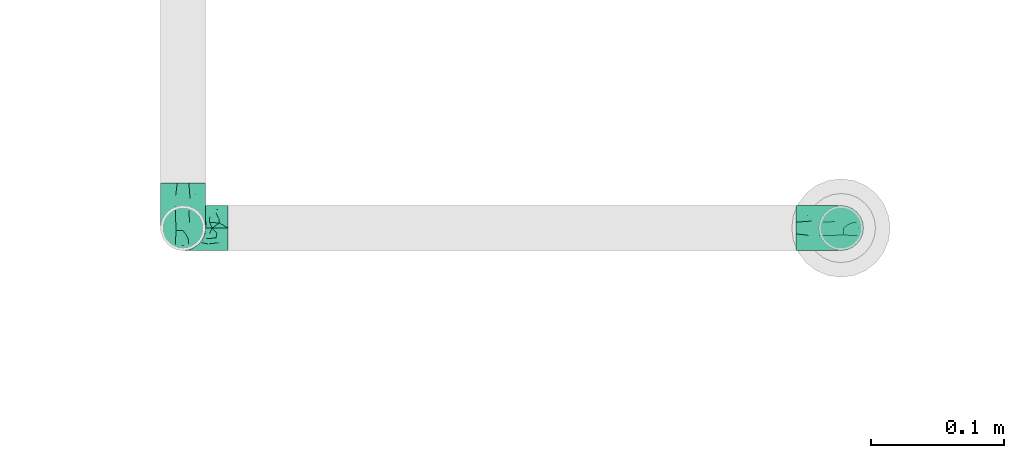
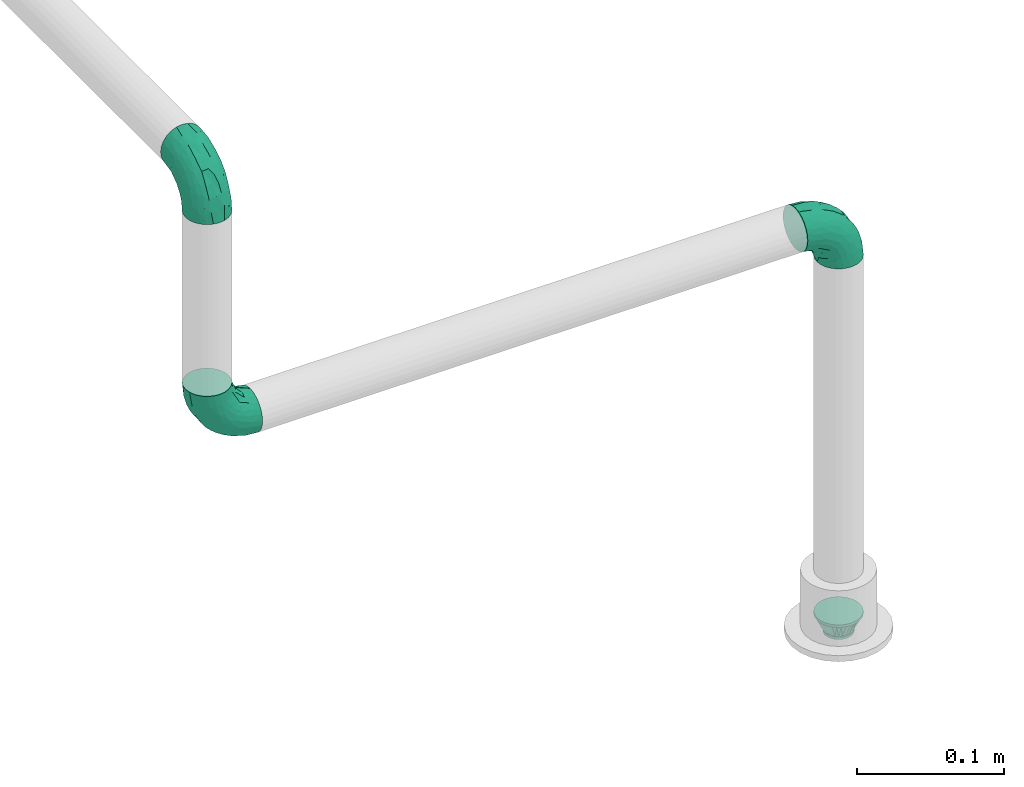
# One storey, part 77 of 95: 4 flow fittings.
"""IFC2X3 building model written with IfcOpenShell, lengths in millimetres."""

from ifc_helpers import new_model, entity, si_unit, converted_unit, derived_unit, direction, frame, origin_with_axes, place, context, subcontext, project, spatial, open_shell, surface_model, source, transform, mapped, type_object, element, save


model = new_model("IFC2X3")

# Units and contexts
model_context = context("Model", 3, precision=0.01, world=frame((0.0, 4.29681676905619e-09, 0.0)), true_north=direction((4.01073788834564e-13, 1.0)))
plan_context = context("Plan", 3, precision=0.01, world=frame((0.0, 4.29681676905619e-09, 0.0)), true_north=direction((4.01073788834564e-13, 1.0)))
body_context = subcontext(model_context, "Body", "Model", "MODEL_VIEW")
ifc_project = project(units=[converted_unit("PLANEANGLEUNIT", "DEGREE", entity("IfcPositiveLengthMeasure", 0.0174532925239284), si_unit("PLANEANGLEUNIT", "RADIAN"), dimensions=[0, 0, 0, 0, 0, 0, 0]), si_unit("AREAUNIT", "SQUARE_METRE"), si_unit("LENGTHUNIT", "METRE", prefix="MILLI"), si_unit("MASSUNIT", "GRAM", prefix="KILO"), si_unit("POWERUNIT", "WATT"), si_unit("PRESSUREUNIT", "PASCAL"), si_unit("FORCEUNIT", "NEWTON", prefix="KILO"), si_unit("ELECTRICVOLTAGEUNIT", "VOLT"), si_unit("ELECTRICCURRENTUNIT", "AMPERE"), si_unit("THERMODYNAMICTEMPERATUREUNIT", "DEGREE_CELSIUS"), si_unit("TIMEUNIT", "SECOND"), si_unit("VOLUMEUNIT", "CUBIC_METRE"), derived_unit("LINEARVELOCITYUNIT", [(si_unit("LENGTHUNIT", "METRE"), 1), (si_unit("TIMEUNIT", "SECOND"), -1)]), derived_unit("VOLUMETRICFLOWRATEUNIT", [(si_unit("VOLUMEUNIT", "CUBIC_METRE"), 1), (si_unit("TIMEUNIT", "SECOND"), -1)]), derived_unit("THERMALTRANSMITTANCEUNIT", [(si_unit("POWERUNIT", "WATT"), 1), (si_unit("THERMODYNAMICTEMPERATUREUNIT", "KELVIN"), -1), (si_unit("AREAUNIT", "SQUARE_METRE"), -1)]), derived_unit("SOUNDPRESSUREUNIT", [(si_unit("PRESSUREUNIT", "PASCAL"), 1)])], contexts=[model_context, plan_context])

# Site, building, storey
site_placement = place(None, frame((0.0, -4.29681676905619e-09, 0.0), z_axis=(0.0, 0.0, 1.0), x_axis=(1.0, 0.0, 0.0)))
site = spatial("IfcSite", under=ifc_project, at=site_placement, CompositionType="ELEMENT")
building_placement = place(site_placement, frame((0.0, 4.29681676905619e-09, 0.0), z_axis=(0.0, 0.0, 1.0), x_axis=(1.0, 0.0, 0.0)))
building = spatial("IfcBuilding", under=site, at=building_placement, Name="mc-building", CompositionType="ELEMENT")
storey_placement = place(building_placement, frame((0.0, 0.0, 210900.0), z_axis=(0.0, 0.0, 1.0), x_axis=(1.0, 0.0, 0.0)))
storey = spatial("IfcBuildingStorey", under=building, at=storey_placement, Name="Nivå F", CompositionType="ELEMENT", Elevation=210900.0)

# Flow fittings
pipe_fitting_type_1 = type_object("IfcPipeFittingType", Name="magi_pipe_fe_reducer_centric_short_NOR", PredefinedType="TRANSITION")
shared_shape_1 = source(origin_with_axes(), body_context, "Body", "SurfaceModel", [
    surface_model("IfcShellBasedSurfaceModel", [(14.4, 5.35, -9.26647), (14.4, 0.0, -10.7), (14.4, 2.76936, -10.33541), (14.4, 10.33541, -2.76936), (14.4, 7.56604, -7.56604), (14.4, -10.33541, -2.76936), (14.4, 9.26647, -5.35), (14.4, 0.0, 10.7), (14.4, -5.35, -9.26647), (14.4, -2.76936, -10.33541), (14.4, -7.56604, -7.56604), (14.4, -9.26647, -5.35), (14.4, 10.7, 0.0), (14.4, 10.33541, 2.76936), (14.4, 9.26647, 5.35), (14.4, 7.56604, 7.56604), (14.4, 2.76936, 10.33541), (14.4, 5.35, 9.26647), (14.4, -10.33541, 2.76936), (14.4, -7.56604, 7.56604), (14.4, -9.26647, 5.35), (14.4, -10.7, 0.0), (14.4, -2.76936, 10.33541), (14.4, -5.35, 9.26647), (12.4, 2.76936, 10.33541), (12.4, -10.33541, -2.76936), (12.4, 0.0, 10.7), (12.4, 5.35, 9.26647), (12.4, 7.56604, 7.56604), (12.4, 9.26647, 5.35), (12.4, 10.33541, 2.76936), (12.4, -10.33541, 2.76936), (12.4, -2.76936, 10.33541), (12.4, -7.56604, 7.56604), (12.4, -5.35, 9.26647), (12.4, -9.26647, 5.35), (12.4, -10.7, 0.0), (12.4, 10.33541, -2.76936), (12.4, 5.35, -9.26647), (12.4, 9.26647, -5.35), (12.4, 7.56604, -7.56604), (12.4, 2.76936, -10.33541), (12.4, -9.26647, -5.35), (12.4, -5.35, -9.26647), (12.4, -7.56604, -7.56604), (12.4, 0.0, -10.7), (12.4, -2.76936, -10.33541), (12.4, 10.7, 0.0), (-2.0, 11.9501, 11.9501), (-2.0, 0.0, 16.9), (-2.0, 4.37404, 16.32415), (-2.0, 8.45, 14.63583), (-2.0, 14.63583, 8.45), (-2.0, 16.32415, 4.37404), (-2.0, -16.32415, 4.37404), (-2.0, -8.45, 14.63583), (-2.0, -14.63583, 8.45), (-2.0, -11.9501, 11.9501), (-2.0, -4.37404, 16.32415), (-2.0, -16.32415, -4.37404), (-2.0, -16.9, 0.0), (-2.0, -8.45, -14.63583), (-2.0, 16.32415, -4.37404), (-2.0, 11.9501, -11.9501), (-2.0, 14.63583, -8.45), (-2.0, 8.45, -14.63583), (-2.0, 4.37404, -16.32415), (-2.0, 0.0, -16.9), (-2.0, -11.9501, -11.9501), (-2.0, -14.63583, -8.45), (-2.0, -4.37404, -16.32415), (-2.0, 16.9, 0.0), (0.0, 4.37404, -16.32415), (0.0, 8.45, -14.63583), (0.0, 11.9501, -11.9501), (0.0, 0.0, -16.9), (0.0, 16.32415, -4.37404), (0.0, 16.32415, 4.37404), (0.0, 14.63583, -8.45), (0.0, -8.45, -14.63583), (0.0, -4.37404, -16.32415), (0.0, -11.9501, -11.9501), (0.0, -16.32415, -4.37404), (0.0, -14.63583, -8.45), (0.0, -16.32415, 4.37404), (0.0, 16.9, 0.0), (0.0, 14.63583, 8.45), (0.0, 11.9501, 11.9501), (0.0, 4.37404, 16.32415), (0.0, 8.45, 14.63583), (0.0, 0.0, 16.9), (0.0, -14.63583, 8.45), (0.0, -16.9, 0.0), (0.0, -8.45, 14.63583), (0.0, -11.9501, 11.9501), (0.0, -4.37404, 16.32415), (12.4, 9.3625, -2.31662), (0.0, 14.42505, -5.97505), (0.0, 15.66253, -2.98753), (12.4, -6.6875, -6.94985), (0.0, -13.18758, -8.96258), (0.0, 2.98753, -15.66253), (12.4, 0.0, -9.26647), (12.4, 6.6875, -6.94985), (0.0, 8.96258, -13.18758), (12.4, -9.3625, -2.31662), (0.0, -15.66253, -2.98753), (0.0, -14.42505, -5.97505), (0.0, 5.97505, -14.42505), (0.0, -2.98753, -15.66253), (0.0, -8.96258, -13.18758), (0.0, 13.18758, -8.96258), (12.4, 8.025, -4.63324), (12.4, -2.675, -9.26647), (12.4, 2.675, -9.26647), (0.0, -5.97505, -14.42505), (12.4, -8.025, -4.63324), (12.4, -9.3625, 2.31662), (0.0, -14.42505, 5.97505), (0.0, -15.66253, 2.98753), (12.4, 6.6875, 6.94985), (0.0, 13.18758, 8.96258), (0.0, -2.98753, 15.66253), (12.4, 0.0, 9.26647), (12.4, -6.6875, 6.94985), (0.0, -8.96258, 13.18758), (12.4, 9.3625, 2.31662), (0.0, 15.66253, 2.98753), (0.0, 14.42505, 5.97505), (0.0, -5.97505, 14.42505), (0.0, 2.98753, 15.66253), (0.0, 8.96258, 13.18758), (0.0, -13.18758, 8.96258), (12.4, -8.025, 4.63324), (12.4, 2.675, 9.26647), (12.4, -2.675, 9.26647), (0.0, 5.97505, 14.42505), (12.4, 8.025, 4.63324)], [open_shell([[[0, 1, 2]], [[3, 0, 4]], [[5, 0, 3]], [[3, 4, 6]], [[7, 5, 3]], [[1, 8, 9]], [[1, 0, 8]], [[10, 5, 11]], [[5, 10, 8]], [[0, 5, 8]], [[3, 12, 13]], [[13, 14, 15]], [[13, 15, 16]], [[7, 3, 16]], [[16, 15, 17]], [[7, 18, 5]], [[18, 19, 20]], [[21, 5, 18]], [[19, 22, 23]], [[22, 19, 18]], [[7, 22, 18]], [[13, 16, 3]], [[24, 25, 26]], [[27, 25, 24]], [[28, 29, 30]], [[28, 25, 27]], [[31, 26, 25]], [[32, 33, 34]], [[33, 32, 31]], [[33, 31, 35]], [[32, 26, 31]], [[31, 25, 36]], [[30, 37, 28]], [[25, 28, 37]], [[38, 37, 39]], [[37, 38, 25]], [[38, 39, 40]], [[41, 25, 38]], [[42, 43, 44]], [[43, 42, 25]], [[43, 45, 46]], [[43, 25, 41]], [[41, 45, 43]], [[37, 30, 47]], [[25, 5, 36]], [[42, 11, 25]], [[8, 44, 43]], [[42, 44, 10]], [[9, 43, 46]], [[25, 11, 5]], [[5, 21, 36]], [[9, 8, 43]], [[10, 44, 8]], [[10, 11, 42]], [[1, 9, 46]], [[46, 45, 1]], [[41, 2, 45]], [[38, 0, 41]], [[6, 40, 39]], [[38, 40, 4]], [[3, 39, 37]], [[38, 4, 0]], [[0, 2, 41]], [[12, 3, 37]], [[6, 39, 3]], [[6, 4, 40]], [[47, 12, 37]], [[45, 2, 1]], [[30, 13, 47]], [[29, 14, 30]], [[17, 28, 27]], [[29, 28, 15]], [[16, 27, 24]], [[30, 14, 13]], [[13, 12, 47]], [[16, 17, 27]], [[15, 28, 17]], [[15, 14, 29]], [[7, 16, 24]], [[24, 26, 7]], [[32, 22, 26]], [[34, 23, 32]], [[20, 33, 35]], [[34, 33, 19]], [[18, 35, 31]], [[34, 19, 23]], [[23, 22, 32]], [[21, 18, 31]], [[20, 35, 18]], [[20, 19, 33]], [[36, 21, 31]], [[26, 22, 7]], [[48, 49, 50]], [[48, 50, 51]], [[48, 52, 53]], [[48, 53, 49]], [[49, 53, 54]], [[55, 56, 57]], [[55, 58, 49]], [[56, 55, 49]], [[49, 54, 56]], [[54, 59, 60]], [[54, 53, 61]], [[53, 62, 63]], [[63, 62, 64]], [[63, 65, 66]], [[61, 53, 63]], [[67, 63, 66]], [[59, 68, 69]], [[68, 59, 61]], [[61, 67, 70]], [[59, 54, 61]], [[63, 67, 61]], [[53, 71, 62]], [[72, 73, 74]], [[75, 72, 74]], [[74, 76, 77]], [[76, 74, 78]], [[74, 77, 79]], [[75, 79, 80]], [[75, 74, 79]], [[81, 82, 83]], [[82, 81, 79]], [[79, 84, 82]], [[77, 76, 85]], [[77, 86, 87]], [[77, 87, 88]], [[88, 84, 79]], [[88, 87, 89]], [[84, 88, 90]], [[90, 91, 84]], [[92, 82, 84]], [[91, 93, 94]], [[91, 90, 93]], [[93, 90, 95]], [[79, 77, 88]], [[59, 82, 60]], [[69, 83, 59]], [[79, 68, 61]], [[69, 68, 81]], [[80, 61, 70]], [[59, 83, 82]], [[82, 92, 60]], [[80, 79, 61]], [[81, 68, 79]], [[81, 83, 69]], [[75, 80, 70]], [[70, 67, 75]], [[66, 72, 67]], [[65, 73, 66]], [[78, 63, 64]], [[65, 63, 74]], [[76, 64, 62]], [[65, 74, 73]], [[73, 72, 66]], [[85, 76, 62]], [[78, 64, 76]], [[78, 74, 63]], [[71, 85, 62]], [[67, 72, 75]], [[53, 77, 71]], [[52, 86, 53]], [[89, 48, 51]], [[52, 48, 87]], [[88, 51, 50]], [[53, 86, 77]], [[77, 85, 71]], [[88, 89, 51]], [[87, 48, 89]], [[87, 86, 52]], [[90, 88, 50]], [[50, 49, 90]], [[58, 95, 49]], [[55, 93, 58]], [[91, 57, 56]], [[55, 57, 94]], [[84, 56, 54]], [[55, 94, 93]], [[93, 95, 58]], [[92, 84, 54]], [[91, 56, 84]], [[91, 94, 57]], [[60, 92, 54]], [[49, 95, 90]], [[27, 34, 47]], [[47, 34, 43]], [[43, 38, 47]], [[43, 34, 36]], [[90, 87, 94]], [[92, 94, 87]], [[87, 74, 92]], [[75, 92, 74]], [[81, 92, 75]], [[74, 87, 85]], [[96, 97, 98]], [[81, 99, 100]], [[101, 102, 75]], [[98, 85, 47]], [[74, 103, 104]], [[104, 103, 38]], [[105, 106, 107]], [[38, 108, 104]], [[102, 109, 75]], [[110, 99, 81]], [[47, 96, 98]], [[103, 111, 112]], [[109, 102, 113]], [[36, 92, 106]], [[102, 101, 114]], [[110, 115, 43]], [[96, 112, 97]], [[107, 116, 105]], [[36, 106, 105]], [[113, 115, 109]], [[43, 115, 113]], [[116, 107, 100]], [[108, 38, 114]], [[111, 103, 74]], [[111, 97, 112]], [[99, 110, 43]], [[116, 100, 99]], [[101, 108, 114]], [[117, 118, 119]], [[87, 120, 121]], [[122, 123, 90]], [[119, 92, 36]], [[94, 124, 125]], [[125, 124, 34]], [[126, 127, 128]], [[34, 129, 125]], [[123, 130, 90]], [[131, 120, 87]], [[36, 117, 119]], [[124, 132, 133]], [[130, 123, 134]], [[47, 85, 127]], [[123, 122, 135]], [[131, 136, 27]], [[117, 133, 118]], [[128, 137, 126]], [[47, 127, 126]], [[134, 136, 130]], [[27, 136, 134]], [[137, 128, 121]], [[129, 34, 135]], [[132, 124, 94]], [[132, 118, 133]], [[120, 131, 27]], [[137, 121, 120]], [[122, 129, 135]]])]),
])
flow_fitting_placement = place(storey_placement, frame((530497.57166, 458598.02191, 3769.25200000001), z_axis=(0.0, -1.0, 0.0), x_axis=(0.0, 0.0, -1.0)))
element("IfcFlowFitting", 1, at=flow_fitting_placement, inside=storey, type_object=pipe_fitting_type_1, Name="magi_pipe_fe_reducer_centric_short_NOR", context=body_context, shape_type="MappedRepresentation", body=[
    mapped(shared_shape_1, transform((0.0, 0.0, 0.0), scale=1.0)),
])
pipe_fitting_type_2 = type_object("IfcPipeFittingType", Name="magi_pipe_fe_elbow_short_001", PredefinedType="BEND")
shared_shape_2 = source(origin_with_axes(), body_context, "Body", "SurfaceModel", [
    surface_model("IfcShellBasedSurfaceModel", [(-33.8, 8.45, -14.63583), (-33.8, 4.37404, -16.32415), (-33.8, 11.9501, -11.9501), (-33.8, -11.9501, -11.9501), (-33.8, -14.63583, -8.45), (-33.8, -8.45, -14.63583), (-33.8, 0.0, -16.9), (-33.8, -4.37404, -16.32415), (-33.8, -4.37404, 16.32415), (-33.8, 0.0, 16.9), (-33.8, -8.45, 14.63583), (-33.8, 16.32415, -4.37404), (-33.8, 14.63583, -8.45), (-33.8, -16.32415, -4.37404), (-33.8, -16.9, 0.0), (-33.8, -16.32415, 4.37404), (-33.8, 11.9501, 11.9501), (-33.8, 14.63583, 8.45), (-33.8, 16.32415, 4.37404), (-33.8, 4.37404, 16.32415), (-33.8, 8.45, 14.63583), (-33.8, -14.63583, 8.45), (-33.8, -11.9501, 11.9501), (-33.8, 16.9, 0.0), (-11.9501, 33.8, -11.9501), (0.0, 33.8, -16.9), (-4.37404, 33.8, -16.32415), (-8.45, 33.8, -14.63583), (-14.63583, 33.8, -8.45), (-16.32415, 33.8, -4.37404), (14.63583, 33.8, -8.45), (8.45, 33.8, 14.63583), (16.32415, 33.8, -4.37404), (8.45, 33.8, -14.63583), (11.9501, 33.8, -11.9501), (4.37404, 33.8, -16.32415), (16.32415, 33.8, 4.37404), (16.9, 33.8, 0.0), (-11.9501, 33.8, 11.9501), (-16.32415, 33.8, 4.37404), (-14.63583, 33.8, 8.45), (-8.45, 33.8, 14.63583), (-4.37404, 33.8, 16.32415), (11.9501, 33.8, 11.9501), (14.63583, 33.8, 8.45), (0.0, 33.8, 16.9), (4.37404, 33.8, 16.32415), (-16.9, 33.8, 0.0), (-24.79389, -13.12945, 9.48721), (-22.19287, -9.75018, 12.59315), (-24.09897, -14.97035, 0.0), (-14.93934, -10.76256, 8.5297), (-22.46095, -14.75051, 5.27077), (14.75051, 22.46094, 5.27077), (11.9251, 13.23888, 4.33236), (13.04069, 14.39795, 0.0), (7.71387, 13.68847, 11.55891), (9.75018, 22.19287, 12.59315), (4.10169, 13.0571, 14.04018), (-24.84007, -6.39063, 15.2048), (-25.81779, -2.23879, 16.61097), (-23.66549, 2.59054, 16.87119), (-26.50418, 14.06512, 11.08152), (-24.21253, 17.66365, 7.72657), (-29.58514, 15.86957, 7.00283), (-6.17382, -7.5455, 0.0), (-13.23888, -11.9251, 4.33236), (-14.39795, -13.04069, 0.0), (-17.81434, 18.87373, 11.97104), (-6.30846, 29.15138, 15.82987), (-2.31622, 25.28002, 16.85849), (-29.23923, 10.23435, 13.77053), (-1.45439, -2.85688, 7.61475), (-0.28326, 0.34872, 10.09509), (-5.74484, -4.04709, 10.4122), (-4.41137, 11.31918, 16.59407), (-8.39727, 3.10034, 15.7812), (-1.72649, 9.1306, 15.53089), (-17.39909, 24.75344, 7.64977), (-26.19233, 20.0512, 0.0), (-28.14518, 17.29657, 4.25857), (-26.05147, 6.6281, 15.96447), (-5.87354, 16.61944, 16.86968), (-12.51807, 12.51807, 16.48937), (-10.06312, 7.38516, 16.81295), (-3.01882, 3.01882, 13.81718), (-13.0571, -4.10169, 14.04018), (-16.82553, -0.15166, 16.38038), (10.76256, 14.93934, 8.5297), (13.12945, 24.79389, 9.48721), (6.39063, 24.84007, 15.2048), (2.23879, 25.81779, 16.61097), (-13.68847, -7.71387, 11.55891), (14.97035, 24.09897, 0.0), (-7.30894, 22.89991, 16.09489), (-10.67958, 26.17414, 14.008), (-12.78295, 18.26924, 15.06066), (-13.88562, 22.45231, 12.93244), (-18.04944, 15.16501, 14.04434), (-23.11658, 20.08178, 4.02986), (-21.84989, 21.84989, 0.0), (-18.55817, 25.48277, 3.93065), (-13.95142, 26.94732, 11.03289), (-18.57098, 7.23906, 16.59756), (-16.58335, 4.14122, 16.89279), (-17.96666, 11.46709, 15.63151), (-9.84453, 17.54304, 16.18938), (0.15166, 16.82553, 16.38038), (-23.27207, 11.47201, 14.23154), (3.84842, 5.86994, 10.70473), (-8.0212, -7.54413, 7.93275), (1.00345, -2.19508, 4.57414), (5.13203, 3.01004, 5.90201), (5.24161, 1.7543, 2.53265), (8.70457, 7.04947, 3.99182), (-20.0512, 26.19233, 0.0), (8.4852, 8.76699, 7.09296), (-4.55488, -6.72064, 4.90681), (2.05031, -2.05031, 0.0), (7.5455, 6.17382, 0.0), (-26.75399, 2.1369, -16.845), (-14.61995, 24.73803, -11.27736), (-28.45274, -13.45335, -9.81895), (-26.00469, 6.63555, -15.96645), (-23.06726, 20.04573, -4.26202), (-13.80647, -4.26506, -14.17873), (-14.67501, -0.21081, -16.07388), (-6.7902, -0.2828, -13.8478), (-24.53586, 11.08096, -14.13417), (-26.72048, 14.00837, -11.05776), (10.0967, 24.44989, -12.75976), (5.83237, 21.40218, -15.03047), (6.66249, 28.54238, -15.38093), (-20.38182, 15.48705, -12.74596), (12.53268, 21.23441, -9.15363), (12.54494, 15.67504, -5.54878), (9.7522, 12.89279, -8.66343), (-15.65186, 19.64213, -13.01327), (-12.03528, 20.66498, -14.67665), (-15.61907, 15.61906, -14.83879), (-25.56551, -15.26206, 0.0), (-24.65452, -15.12934, -5.50955), (13.45335, 28.45274, -9.81895), (15.12934, 24.65452, -5.50955), (-7.35442, -8.31014, -5.65563), (-15.67504, -12.54494, -5.54878), (-24.44989, -10.0967, -12.75976), (0.16522, 0.41303, -9.71728), (-5.70658, -5.33066, -8.89288), (-5.13869, -2.37198, -11.53565), (-21.23441, -12.53268, -9.15363), (0.71146, 7.93863, -14.09382), (0.21081, 14.67501, -16.07388), (3.49291, 14.42772, -14.76381), (-24.89911, -2.13088, -16.591), (-28.54238, -6.66249, -15.38093), (-18.44386, -7.71663, -13.26957), (2.13088, 24.89911, -16.591), (-28.64342, 17.44413, -2.89318), (1.70017, -1.28722, -5.09504), (-16.57067, 26.81947, -7.36596), (-17.69055, 27.4263, -3.76405), (-12.89279, -9.7522, -8.66343), (-5.96611, 5.96611, -15.95814), (-20.53709, 20.09345, -8.28985), (-2.1369, 26.75399, -16.845), (-6.89872, 24.58781, -16.02578), (-10.60739, 26.53157, -13.98044), (-21.40218, -5.83237, -15.03047), (2.93192, 5.89627, -11.55917), (6.89393, 12.61842, -11.82233), (5.58056, 5.95325, -8.79455), (-3.99512, 18.61798, -16.89635), (8.31014, 7.35442, -5.65563), (-9.1383, 9.86148, -16.89041), (-9.99983, 16.02119, -16.39699), (-16.68576, 9.78031, -16.34199), (-27.01915, 16.61158, -7.12979), (15.26206, 25.56551, 0.0), (-18.61798, 3.99512, -16.89635), (-19.37495, 27.82495, 0.0), (-12.61842, -6.89393, -11.82233), (-18.84705, 19.14018, -10.96545)], [open_shell([[[0, 1, 2]], [[3, 4, 5]], [[6, 7, 5]], [[8, 9, 10]], [[1, 6, 2]], [[11, 12, 2]], [[4, 2, 6]], [[2, 13, 10]], [[5, 4, 6]], [[2, 4, 13]], [[14, 15, 13]], [[11, 2, 16]], [[11, 17, 18]], [[11, 16, 17]], [[19, 20, 16]], [[16, 2, 10]], [[19, 16, 10]], [[21, 22, 15]], [[22, 13, 15]], [[22, 10, 13]], [[10, 9, 19]], [[11, 18, 23]], [[24, 25, 26]], [[24, 26, 27]], [[24, 28, 29]], [[25, 24, 30]], [[31, 32, 24]], [[33, 30, 34]], [[33, 35, 25]], [[25, 30, 33]], [[32, 30, 24]], [[32, 36, 37]], [[38, 24, 29]], [[39, 40, 29]], [[40, 38, 29]], [[38, 41, 42]], [[38, 31, 24]], [[31, 38, 42]], [[36, 43, 44]], [[36, 32, 43]], [[31, 45, 46]], [[32, 31, 43]], [[42, 45, 31]], [[39, 29, 47]], [[22, 48, 49]], [[15, 14, 50]], [[51, 48, 52]], [[53, 54, 55]], [[48, 22, 21]], [[15, 52, 21]], [[56, 57, 58]], [[49, 10, 22]], [[49, 59, 10]], [[9, 60, 61]], [[62, 63, 64]], [[65, 66, 67]], [[57, 43, 31]], [[62, 68, 63]], [[42, 69, 70]], [[20, 71, 16]], [[8, 60, 9]], [[72, 73, 74]], [[75, 76, 77]], [[16, 62, 17]], [[40, 39, 78]], [[79, 23, 80]], [[64, 18, 17]], [[9, 61, 19]], [[19, 81, 20]], [[82, 83, 84]], [[74, 85, 86]], [[59, 86, 87]], [[88, 89, 57]], [[90, 31, 46]], [[44, 53, 36]], [[46, 45, 91]], [[54, 53, 88]], [[44, 89, 53]], [[92, 86, 49]], [[89, 44, 43]], [[10, 59, 8]], [[53, 55, 93]], [[93, 36, 53]], [[66, 52, 67]], [[94, 82, 70]], [[95, 96, 94]], [[97, 98, 96]], [[79, 99, 100]], [[41, 38, 95]], [[101, 100, 99]], [[68, 78, 63]], [[42, 41, 69]], [[23, 18, 80]], [[95, 94, 69]], [[78, 101, 99]], [[38, 102, 95]], [[70, 45, 42]], [[97, 95, 102]], [[15, 50, 52]], [[90, 57, 31]], [[57, 90, 58]], [[81, 19, 61]], [[103, 104, 84]], [[105, 81, 103]], [[38, 40, 102]], [[106, 96, 83]], [[94, 106, 82]], [[91, 70, 107]], [[71, 62, 16]], [[62, 108, 98]], [[86, 59, 49]], [[67, 52, 50]], [[60, 59, 87]], [[92, 49, 51]], [[86, 85, 76]], [[91, 90, 46]], [[37, 36, 93]], [[107, 77, 58]], [[107, 58, 90]], [[58, 85, 109]], [[110, 74, 92]], [[72, 74, 110]], [[66, 51, 52]], [[72, 111, 112]], [[113, 114, 112]], [[56, 88, 57]], [[52, 48, 21]], [[49, 48, 51]], [[57, 89, 43]], [[53, 89, 88]], [[103, 81, 61]], [[71, 81, 108]], [[18, 64, 80]], [[63, 78, 99]], [[47, 115, 101]], [[101, 115, 100]], [[40, 78, 102]], [[68, 102, 78]], [[97, 96, 95]], [[105, 98, 108]], [[103, 84, 83]], [[107, 70, 82]], [[76, 84, 87]], [[82, 84, 75]], [[70, 91, 45]], [[90, 91, 107]], [[59, 60, 8]], [[61, 60, 87]], [[73, 85, 74]], [[109, 112, 116]], [[103, 61, 104]], [[105, 103, 83]], [[96, 105, 83]], [[81, 105, 108]], [[96, 98, 105]], [[62, 98, 68]], [[61, 87, 104]], [[87, 84, 104]], [[86, 76, 87]], [[77, 76, 85]], [[58, 77, 85]], [[75, 77, 107]], [[82, 75, 107]], [[76, 75, 84]], [[81, 71, 20]], [[62, 71, 108]], [[95, 69, 41]], [[70, 69, 94]], [[62, 64, 17]], [[80, 63, 99]], [[63, 80, 64]], [[80, 99, 79]], [[66, 65, 117]], [[110, 66, 117]], [[112, 114, 116]], [[118, 117, 65]], [[110, 92, 51]], [[112, 111, 113]], [[119, 55, 54]], [[74, 86, 92]], [[58, 109, 56]], [[116, 56, 109]], [[66, 110, 51]], [[72, 110, 117]], [[111, 72, 117]], [[73, 112, 109]], [[117, 118, 111]], [[113, 111, 118]], [[118, 119, 113]], [[114, 119, 54]], [[119, 114, 113]], [[116, 54, 88]], [[54, 116, 114]], [[116, 88, 56]], [[112, 73, 72]], [[85, 73, 109]], [[78, 39, 101]], [[47, 101, 39]], [[102, 68, 97]], [[97, 68, 98]], [[82, 106, 83]], [[94, 96, 106]], [[1, 120, 6]], [[28, 24, 121]], [[3, 122, 4]], [[0, 123, 1]], [[100, 124, 79]], [[125, 126, 127]], [[128, 2, 129]], [[130, 131, 132]], [[128, 129, 133]], [[134, 135, 136]], [[137, 138, 139]], [[128, 0, 2]], [[67, 140, 141]], [[134, 142, 143]], [[141, 13, 4]], [[144, 65, 145]], [[146, 3, 5]], [[147, 148, 149]], [[145, 141, 150]], [[151, 152, 153]], [[154, 7, 6]], [[5, 155, 146]], [[150, 146, 156]], [[155, 5, 7]], [[143, 135, 134]], [[35, 157, 25]], [[23, 79, 158]], [[148, 159, 144]], [[160, 161, 29]], [[145, 162, 144]], [[163, 152, 151]], [[29, 28, 160]], [[121, 164, 160]], [[33, 34, 130]], [[25, 165, 26]], [[26, 165, 166]], [[142, 34, 30]], [[24, 27, 167]], [[124, 161, 164]], [[157, 35, 132]], [[155, 154, 168]], [[123, 0, 128]], [[169, 170, 171]], [[172, 157, 152]], [[26, 166, 27]], [[132, 35, 33]], [[142, 130, 34]], [[168, 154, 126]], [[136, 135, 173]], [[133, 137, 139]], [[2, 12, 129]], [[170, 131, 130]], [[30, 32, 143]], [[172, 174, 175]], [[176, 123, 128]], [[158, 177, 11]], [[135, 55, 119]], [[167, 27, 166]], [[175, 166, 172]], [[137, 167, 138]], [[122, 141, 4]], [[140, 14, 13]], [[32, 37, 178]], [[170, 130, 134]], [[152, 157, 131]], [[165, 157, 172]], [[153, 170, 151]], [[152, 163, 174]], [[168, 125, 156]], [[122, 146, 150]], [[120, 154, 6]], [[179, 174, 126]], [[179, 126, 154]], [[126, 163, 127]], [[162, 145, 150]], [[140, 13, 141]], [[32, 178, 143]], [[55, 143, 178]], [[177, 129, 12]], [[128, 133, 139]], [[176, 128, 139]], [[120, 123, 179]], [[121, 160, 28]], [[161, 100, 180]], [[166, 175, 138]], [[121, 24, 167]], [[161, 47, 29]], [[79, 124, 158]], [[124, 164, 177]], [[161, 124, 100]], [[136, 171, 170]], [[127, 163, 151]], [[147, 171, 159]], [[148, 144, 162]], [[127, 151, 169]], [[127, 181, 125]], [[129, 177, 164]], [[12, 11, 177]], [[159, 65, 144]], [[67, 141, 145]], [[143, 55, 135]], [[135, 119, 173]], [[123, 120, 1]], [[154, 120, 179]], [[157, 165, 25]], [[166, 165, 172]], [[172, 152, 174]], [[176, 139, 175]], [[126, 174, 163]], [[176, 174, 179]], [[174, 176, 175]], [[123, 176, 179]], [[150, 181, 162]], [[127, 149, 181]], [[181, 148, 162]], [[159, 148, 147]], [[171, 136, 173]], [[170, 134, 136]], [[159, 171, 173]], [[171, 147, 169]], [[169, 147, 149]], [[151, 170, 169]], [[164, 182, 129]], [[182, 121, 137]], [[181, 149, 148]], [[169, 149, 127]], [[182, 137, 133]], [[167, 137, 121]], [[166, 138, 167]], [[175, 139, 138]], [[129, 182, 133]], [[121, 182, 164]], [[161, 160, 164]], [[47, 161, 180]], [[177, 158, 124]], [[23, 158, 11]], [[130, 132, 33]], [[157, 132, 131]], [[143, 142, 30]], [[130, 142, 134]], [[154, 155, 7]], [[146, 155, 168]], [[146, 122, 3]], [[141, 122, 150]], [[152, 131, 153]], [[159, 119, 118]], [[67, 145, 65]], [[170, 153, 131]], [[119, 159, 173]], [[159, 118, 65]], [[156, 125, 181]], [[126, 125, 168]], [[150, 156, 181]], [[168, 156, 146]]])]),
])
for number, where, z_axis, x_axis, name in (
    (2, (530002.76487, 458598.02191, 4310.0), (1.0, 0.0, 0.0), (0.0, -1.0, 0.0), "magi_pipe_fe_elbow_short_001"),
    (3, (530002.76487, 458598.02191, 4100.0), (0.0, -1.0, 0.0), (0.0, 0.0, -1.0), "magi_pipe_fe_elbow_short_001"),
    (4, (530497.57166, 458598.02191, 4100.0), (0.0, 1.0, 0.0), (1.0, 0.0, 0.0), "magi_pipe_fe_elbow_short_001"),
):
    element("IfcFlowFitting", number, at=place(storey_placement, frame(where, z_axis=z_axis, x_axis=x_axis)), inside=storey, type_object=pipe_fitting_type_2, Name=name, context=body_context, shape_type="MappedRepresentation", body=[
        mapped(shared_shape_2, transform((0.0, 0.0, 0.0), scale=1.0)),
    ])

save(model, "model.ifc")
